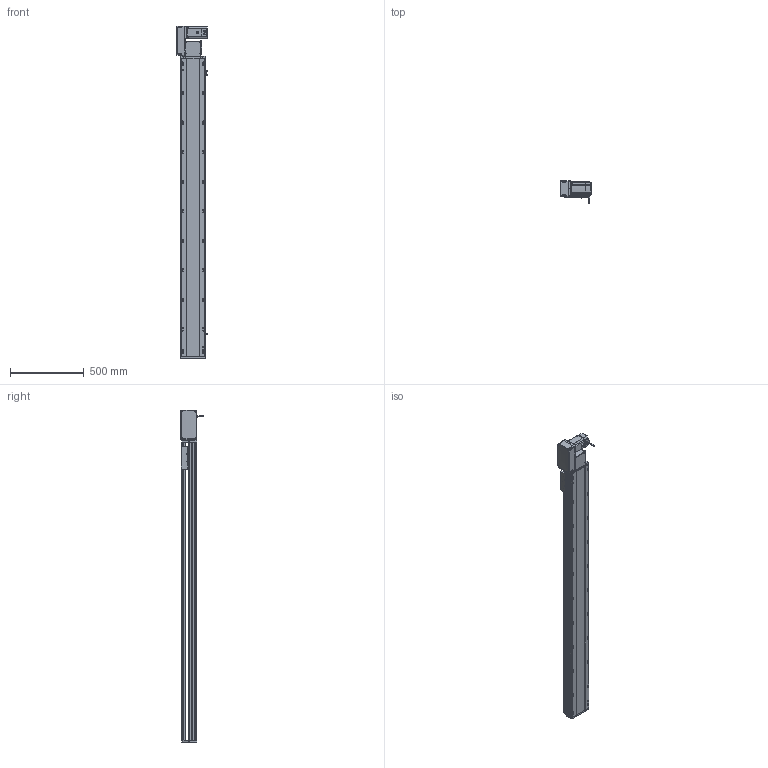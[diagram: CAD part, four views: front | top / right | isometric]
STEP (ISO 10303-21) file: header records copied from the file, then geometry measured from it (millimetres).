
FILE_DESCRIPTION (( 'STEP AP214' ), '1' );
FILE_NAME ('RTB17S-XX-1750-L-M75-C4.STEP', '2025-12-12T00:17:18', ( '' ), ( '' ), 'SwSTEP 2.0', 'SolidWorks 2018', '' );
FILE_SCHEMA (( 'AUTOMOTIVE_DESIGN' ));
Length unit declared in the file: millimetre
Products named in the file (15): RTB22S-GY-005P^RTB17S-L-々湍釱蚾饜-750W_RTB17S-XX-XX-L-M75-C4; RTB17S-L-004-賑釱^RTB17S-賑釱_RTB17S-XX-XX-L-M75-C4; RMP17S-L-014-T20-P75--々湍釱^RTB17S-L-々湍釱蚾饜-750W_RTB17S-XX-XX-L-M75-C4; 750W萇儂^RTB17S-XX-XX-L-M75-C4; RTB17S-L-007奻裔^RTB17S-XX-XX-L-M75-C4; RTB22S-GY-018P^RTB17S-L-々湍釱蚾饜-750W_RTB17S-XX-XX-L-M75-C4; RTH13-BL-012覜茼え俋离^RTB17S-賑釱_RTB17S-XX-XX-L-M75-C4; RTB22S-GY-017P^RTB17S-L-々湍釱蚾饜-750W_RTB17S-XX-XX-L-M75-C4; RTB17S-L-001-耜醱啣^RTB17S-XX-XX-L-M75-C4; RTB17S-賑釱^RTB17S-XX-XX-L-M75-C4; RTB22S-GY-008-M75--萇儂啣^RTB17S-L-々湍釱蚾饜-750W_RTB17S-XX-XX-L-M75-C4; RTB17-R-011菁釱^RTB17S-XX-XX-L-M75-C4; EE672^RTB17S-XX-XX-L-M75-C4; RTB17S-XX-1750-L-M75-C4; RTB17S-L-々湍釱蚾饜-750W^RTB17S-XX-XX-L-M75-C4
Assembly tree (17 placements, depth 3):
  RTB17S-XX-1750-L-M75-C4
    RTB17-R-011菁釱^RTB17S-XX-XX-L-M75-C4
    EE672^RTB17S-XX-XX-L-M75-C4  x3
    RTB17S-L-001-耜醱啣^RTB17S-XX-XX-L-M75-C4
    RTB17S-賑釱^RTB17S-XX-XX-L-M75-C4
      RTB17S-L-004-賑釱^RTB17S-賑釱_RTB17S-XX-XX-L-M75-C4
      RTH13-BL-012覜茼え俋离^RTB17S-賑釱_RTB17S-XX-XX-L-M75-C4
    RTB17S-L-007奻裔^RTB17S-XX-XX-L-M75-C4
    750W萇儂^RTB17S-XX-XX-L-M75-C4
    RTB17S-L-々湍釱蚾饜-750W^RTB17S-XX-XX-L-M75-C4
      RMP17S-L-014-T20-P75--々湍釱^RTB17S-L-々湍釱蚾饜-750W_RTB17S-XX-XX-L-M75-C4
      RTB22S-GY-005P^RTB17S-L-々湍釱蚾饜-750W_RTB17S-XX-XX-L-M75-C4
      RTB22S-GY-017P^RTB17S-L-々湍釱蚾饜-750W_RTB17S-XX-XX-L-M75-C4  x2
      RTB22S-GY-008-M75--萇儂啣^RTB17S-L-々湍釱蚾饜-750W_RTB17S-XX-XX-L-M75-C4
      RTB22S-GY-018P^RTB17S-L-々湍釱蚾饜-750W_RTB17S-XX-XX-L-M75-C4
Bounding box: 210.4 x 152.7 x 2249 mm (x, y, z)
Volume: 16889508.2 mm3; surface area: 2992166 mm2
Topology: 17 solids, 17 shells, 2153 faces, 5998 edges, 3878 vertices
Faces by surface type: plane 978, cylinder 759, bspline 294, cone 110, sphere 8, torus 4
Entity records: 61174 total; most frequent: CARTESIAN_POINT 18062, ORIENTED_EDGE 8840, DIRECTION 8222, EDGE_CURVE 4420, AXIS2_PLACEMENT_3D 2898, VERTEX_POINT 2882, VECTOR 2426, LINE 2426
